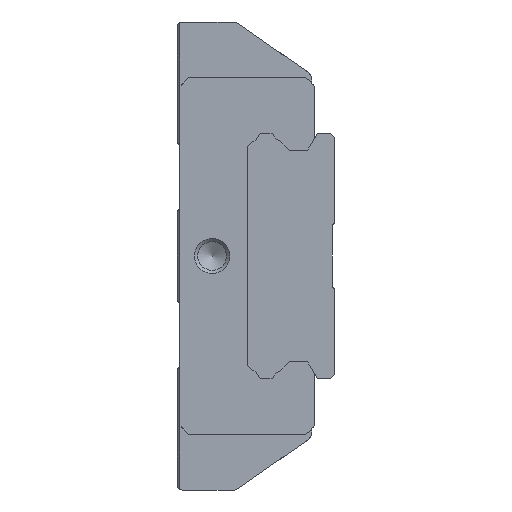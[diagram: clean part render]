
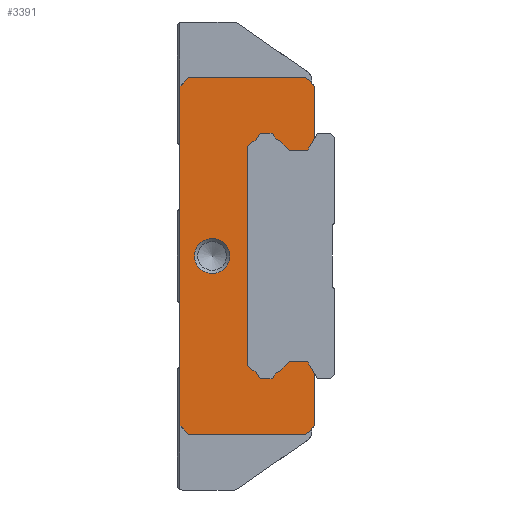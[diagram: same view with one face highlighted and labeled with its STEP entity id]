
A CAD part, left-side view. The second image highlights one B-rep face of the part: STEP entity #3391.
In plain terms, the highlighted planar face has unit normal (-1, 0, 0).
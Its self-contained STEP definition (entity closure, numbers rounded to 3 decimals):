
#139=CIRCLE('',#3677,3.);
#140=CIRCLE('',#3678,1.43);
#141=CIRCLE('',#3679,1.43);
#142=CIRCLE('',#3680,1.43);
#143=CIRCLE('',#3681,1.43);
#699=ORIENTED_EDGE('',*,*,#1475,.T.);
#700=ORIENTED_EDGE('',*,*,#1476,.T.);
#701=ORIENTED_EDGE('',*,*,#1471,.F.);
#702=ORIENTED_EDGE('',*,*,#1390,.F.);
#703=ORIENTED_EDGE('',*,*,#1451,.F.);
#704=ORIENTED_EDGE('',*,*,#1446,.F.);
#705=ORIENTED_EDGE('',*,*,#1466,.F.);
#706=ORIENTED_EDGE('',*,*,#1433,.F.);
#707=ORIENTED_EDGE('',*,*,#1453,.F.);
#708=ORIENTED_EDGE('',*,*,#1400,.F.);
#709=ORIENTED_EDGE('',*,*,#1473,.F.);
#710=ORIENTED_EDGE('',*,*,#1477,.T.);
#711=ORIENTED_EDGE('',*,*,#1478,.T.);
#712=ORIENTED_EDGE('',*,*,#1479,.T.);
#713=ORIENTED_EDGE('',*,*,#1480,.F.);
#714=ORIENTED_EDGE('',*,*,#1481,.T.);
#715=ORIENTED_EDGE('',*,*,#1482,.T.);
#716=ORIENTED_EDGE('',*,*,#1483,.T.);
#717=ORIENTED_EDGE('',*,*,#1484,.F.);
#718=ORIENTED_EDGE('',*,*,#1485,.T.);
#719=ORIENTED_EDGE('',*,*,#1458,.T.);
#720=ORIENTED_EDGE('',*,*,#1486,.T.);
#721=ORIENTED_EDGE('',*,*,#1487,.F.);
#722=ORIENTED_EDGE('',*,*,#1488,.T.);
#723=ORIENTED_EDGE('',*,*,#1489,.T.);
#724=ORIENTED_EDGE('',*,*,#1490,.T.);
#725=ORIENTED_EDGE('',*,*,#1491,.F.);
#726=ORIENTED_EDGE('',*,*,#1492,.T.);
#727=ORIENTED_EDGE('',*,*,#1493,.T.);
#1390=EDGE_CURVE('',#1812,#1813,#2128,.T.);
#1400=EDGE_CURVE('',#1822,#1823,#2138,.T.);
#1433=EDGE_CURVE('',#1845,#1846,#2171,.T.);
#1446=EDGE_CURVE('',#1856,#1857,#2184,.T.);
#1451=EDGE_CURVE('',#1857,#1812,#2189,.T.);
#1453=EDGE_CURVE('',#1823,#1845,#2191,.T.);
#1458=EDGE_CURVE('',#1860,#1862,#2196,.T.);
#1466=EDGE_CURVE('',#1846,#1856,#2202,.T.);
#1471=EDGE_CURVE('',#1813,#1866,#2207,.T.);
#1473=EDGE_CURVE('',#1867,#1822,#2209,.T.);
#1475=EDGE_CURVE('',#1869,#1869,#139,.T.);
#1476=EDGE_CURVE('',#1870,#1866,#2211,.T.);
#1477=EDGE_CURVE('',#1867,#1871,#2212,.T.);
#1478=EDGE_CURVE('',#1871,#1872,#2213,.T.);
#1479=EDGE_CURVE('',#1872,#1873,#2214,.T.);
#1480=EDGE_CURVE('',#1874,#1873,#140,.T.);
#1481=EDGE_CURVE('',#1874,#1875,#2215,.T.);
#1482=EDGE_CURVE('',#1875,#1876,#2216,.T.);
#1483=EDGE_CURVE('',#1876,#1877,#2217,.T.);
#1484=EDGE_CURVE('',#1878,#1877,#141,.T.);
#1485=EDGE_CURVE('',#1878,#1860,#2218,.T.);
#1486=EDGE_CURVE('',#1862,#1879,#2219,.T.);
#1487=EDGE_CURVE('',#1880,#1879,#142,.T.);
#1488=EDGE_CURVE('',#1880,#1881,#2220,.T.);
#1489=EDGE_CURVE('',#1881,#1882,#2221,.T.);
#1490=EDGE_CURVE('',#1882,#1883,#2222,.T.);
#1491=EDGE_CURVE('',#1884,#1883,#143,.T.);
#1492=EDGE_CURVE('',#1884,#1885,#2223,.T.);
#1493=EDGE_CURVE('',#1885,#1870,#2224,.T.);
#1812=VERTEX_POINT('',#5246);
#1813=VERTEX_POINT('',#5248);
#1822=VERTEX_POINT('',#5267);
#1823=VERTEX_POINT('',#5269);
#1845=VERTEX_POINT('',#5330);
#1846=VERTEX_POINT('',#5332);
#1856=VERTEX_POINT('',#5355);
#1857=VERTEX_POINT('',#5357);
#1860=VERTEX_POINT('',#5374);
#1862=VERTEX_POINT('',#5378);
#1866=VERTEX_POINT('',#5401);
#1867=VERTEX_POINT('',#5406);
#1869=VERTEX_POINT('',#5412);
#1870=VERTEX_POINT('',#5414);
#1871=VERTEX_POINT('',#5416);
#1872=VERTEX_POINT('',#5418);
#1873=VERTEX_POINT('',#5420);
#1874=VERTEX_POINT('',#5422);
#1875=VERTEX_POINT('',#5424);
#1876=VERTEX_POINT('',#5426);
#1877=VERTEX_POINT('',#5428);
#1878=VERTEX_POINT('',#5430);
#1879=VERTEX_POINT('',#5433);
#1880=VERTEX_POINT('',#5435);
#1881=VERTEX_POINT('',#5437);
#1882=VERTEX_POINT('',#5439);
#1883=VERTEX_POINT('',#5441);
#1884=VERTEX_POINT('',#5443);
#1885=VERTEX_POINT('',#5445);
#2128=LINE('',#5247,#2470);
#2138=LINE('',#5268,#2480);
#2171=LINE('',#5331,#2513);
#2184=LINE('',#5356,#2526);
#2189=LINE('',#5365,#2531);
#2191=LINE('',#5368,#2533);
#2196=LINE('',#5379,#2538);
#2202=LINE('',#5394,#2544);
#2207=LINE('',#5403,#2549);
#2209=LINE('',#5408,#2551);
#2211=LINE('',#5413,#2553);
#2212=LINE('',#5415,#2554);
#2213=LINE('',#5417,#2555);
#2214=LINE('',#5419,#2556);
#2215=LINE('',#5423,#2557);
#2216=LINE('',#5425,#2558);
#2217=LINE('',#5427,#2559);
#2218=LINE('',#5431,#2560);
#2219=LINE('',#5432,#2561);
#2220=LINE('',#5436,#2562);
#2221=LINE('',#5438,#2563);
#2222=LINE('',#5440,#2564);
#2223=LINE('',#5444,#2565);
#2224=LINE('',#5446,#2566);
#2470=VECTOR('',#4251,1000.);
#2480=VECTOR('',#4263,1000.);
#2513=VECTOR('',#4310,1000.);
#2526=VECTOR('',#4325,1000.);
#2531=VECTOR('',#4334,1000.);
#2533=VECTOR('',#4338,1000.);
#2538=VECTOR('',#4347,1000.);
#2544=VECTOR('',#4367,1000.);
#2549=VECTOR('',#4376,1000.);
#2551=VECTOR('',#4380,1000.);
#2553=VECTOR('',#4386,1000.);
#2554=VECTOR('',#4387,1000.);
#2555=VECTOR('',#4388,1000.);
#2556=VECTOR('',#4389,1000.);
#2557=VECTOR('',#4392,1000.);
#2558=VECTOR('',#4393,1000.);
#2559=VECTOR('',#4394,1000.);
#2560=VECTOR('',#4397,1000.);
#2561=VECTOR('',#4398,1000.);
#2562=VECTOR('',#4401,1000.);
#2563=VECTOR('',#4402,1000.);
#2564=VECTOR('',#4403,1000.);
#2565=VECTOR('',#4406,1000.);
#2566=VECTOR('',#4407,1000.);
#2795=EDGE_LOOP('',(#699));
#2796=EDGE_LOOP('',(#700,#701,#702,#703,#704,#705,#706,#707,#708,#709,#710,
#711,#712,#713,#714,#715,#716,#717,#718,#719,#720,#721,#722,#723,#724,#725,
#726,#727));
#3049=FACE_BOUND('',#2795,.T.);
#3050=FACE_BOUND('',#2796,.T.);
#3241=PLANE('',#3676);
#3391=ADVANCED_FACE('',(#3049,#3050),#3241,.F.);
#3676=AXIS2_PLACEMENT_3D('',#5410,#4382,#4383);
#3677=AXIS2_PLACEMENT_3D('',#5411,#4384,#4385);
#3678=AXIS2_PLACEMENT_3D('',#5421,#4390,#4391);
#3679=AXIS2_PLACEMENT_3D('',#5429,#4395,#4396);
#3680=AXIS2_PLACEMENT_3D('',#5434,#4399,#4400);
#3681=AXIS2_PLACEMENT_3D('',#5442,#4404,#4405);
#4251=DIRECTION('',(0.,-0.707,-0.707));
#4263=DIRECTION('',(0.,0.707,-0.707));
#4310=DIRECTION('',(0.,0.707,0.707));
#4325=DIRECTION('',(0.,-0.707,0.707));
#4334=DIRECTION('',(0.,-1.,0.));
#4338=DIRECTION('',(0.,1.,0.));
#4347=DIRECTION('',(0.,0.,1.));
#4367=DIRECTION('',(0.,0.,1.));
#4376=DIRECTION('',(0.,0.,-1.));
#4380=DIRECTION('',(0.,0.,-1.));
#4382=DIRECTION('',(1.,0.,0.));
#4383=DIRECTION('',(0.,0.,-1.));
#4384=DIRECTION('',(1.,0.,0.));
#4385=DIRECTION('',(0.,0.,-1.));
#4386=DIRECTION('',(0.,-0.5,0.866));
#4387=DIRECTION('',(0.,0.5,0.866));
#4388=DIRECTION('',(0.,1.,0.));
#4389=DIRECTION('',(0.,0.707,-0.707));
#4390=DIRECTION('',(1.,0.,0.));
#4391=DIRECTION('',(0.,0.,-1.));
#4392=DIRECTION('',(0.,0.707,-0.707));
#4393=DIRECTION('',(0.,1.,0.));
#4394=DIRECTION('',(0.,0.487,0.873));
#4395=DIRECTION('',(1.,0.,0.));
#4396=DIRECTION('',(0.,0.,-1.));
#4397=DIRECTION('',(0.,0.789,0.614));
#4398=DIRECTION('',(0.,-0.789,0.614));
#4399=DIRECTION('',(1.,0.,0.));
#4400=DIRECTION('',(0.,0.,-1.));
#4401=DIRECTION('',(0.,-0.487,0.873));
#4402=DIRECTION('',(0.,-1.,0.));
#4403=DIRECTION('',(0.,-0.707,-0.707));
#4404=DIRECTION('',(1.,0.,0.));
#4405=DIRECTION('',(0.,0.,-1.));
#4406=DIRECTION('',(0.,-0.707,-0.707));
#4407=DIRECTION('',(0.,-1.,0.));
#5246=CARTESIAN_POINT('',(-36.4,1.5,30.5));
#5247=CARTESIAN_POINT('',(-36.4,1.5,30.5));
#5248=CARTESIAN_POINT('',(-36.4,0.,29.));
#5267=CARTESIAN_POINT('',(-36.4,0.,-29.));
#5268=CARTESIAN_POINT('',(-36.4,0.,-29.));
#5269=CARTESIAN_POINT('',(-36.4,1.5,-30.5));
#5330=CARTESIAN_POINT('',(-36.4,21.5,-30.5));
#5331=CARTESIAN_POINT('',(-36.4,21.5,-30.5));
#5332=CARTESIAN_POINT('',(-36.4,23.,-29.));
#5355=CARTESIAN_POINT('',(-36.4,23.,29.));
#5356=CARTESIAN_POINT('',(-36.4,23.,29.));
#5357=CARTESIAN_POINT('',(-36.4,21.5,30.5));
#5365=CARTESIAN_POINT('',(-36.4,21.5,30.5));
#5368=CARTESIAN_POINT('',(-36.4,1.5,-30.5));
#5374=CARTESIAN_POINT('',(-36.4,11.5,-18.76));
#5378=CARTESIAN_POINT('',(-36.4,11.5,18.76));
#5379=CARTESIAN_POINT('',(-36.4,11.5,-18.76));
#5394=CARTESIAN_POINT('',(-36.4,23.,-29.));
#5401=CARTESIAN_POINT('',(-36.4,0.,20.099));
#5403=CARTESIAN_POINT('',(-36.4,0.,29.));
#5406=CARTESIAN_POINT('',(-36.4,0.,-20.099));
#5408=CARTESIAN_POINT('',(-36.4,0.,29.));
#5410=CARTESIAN_POINT('',(-36.4,0.,0.));
#5411=CARTESIAN_POINT('',(-36.4,17.5,0.));
#5412=CARTESIAN_POINT('',(-36.4,17.5,-3.));
#5413=CARTESIAN_POINT('',(-36.4,1.154,18.1));
#5414=CARTESIAN_POINT('',(-36.4,1.154,18.1));
#5415=CARTESIAN_POINT('',(-36.4,-0.52,-21.));
#5416=CARTESIAN_POINT('',(-36.4,1.154,-18.1));
#5417=CARTESIAN_POINT('',(-36.4,1.154,-18.1));
#5418=CARTESIAN_POINT('',(-36.4,4.34,-18.1));
#5419=CARTESIAN_POINT('',(-36.4,4.34,-18.1));
#5420=CARTESIAN_POINT('',(-36.4,5.908,-19.668));
#5421=CARTESIAN_POINT('',(-36.4,5.645,-21.074));
#5422=CARTESIAN_POINT('',(-36.4,7.051,-20.811));
#5423=CARTESIAN_POINT('',(-36.4,7.051,-20.811));
#5424=CARTESIAN_POINT('',(-36.4,7.24,-21.));
#5425=CARTESIAN_POINT('',(-36.4,7.24,-21.));
#5426=CARTESIAN_POINT('',(-36.4,9.26,-21.));
#5427=CARTESIAN_POINT('',(-36.4,9.26,-21.));
#5428=CARTESIAN_POINT('',(-36.4,9.607,-20.378));
#5429=CARTESIAN_POINT('',(-36.4,10.856,-21.074));
#5430=CARTESIAN_POINT('',(-36.4,9.977,-19.946));
#5431=CARTESIAN_POINT('',(-36.4,9.977,-19.946));
#5432=CARTESIAN_POINT('',(-36.4,11.5,18.76));
#5433=CARTESIAN_POINT('',(-36.4,9.977,19.946));
#5434=CARTESIAN_POINT('',(-36.4,10.856,21.074));
#5435=CARTESIAN_POINT('',(-36.4,9.607,20.378));
#5436=CARTESIAN_POINT('',(-36.4,9.607,20.378));
#5437=CARTESIAN_POINT('',(-36.4,9.26,21.));
#5438=CARTESIAN_POINT('',(-36.4,9.26,21.));
#5439=CARTESIAN_POINT('',(-36.4,7.24,21.));
#5440=CARTESIAN_POINT('',(-36.4,7.24,21.));
#5441=CARTESIAN_POINT('',(-36.4,7.051,20.811));
#5442=CARTESIAN_POINT('',(-36.4,5.645,21.074));
#5443=CARTESIAN_POINT('',(-36.4,5.908,19.668));
#5444=CARTESIAN_POINT('',(-36.4,5.908,19.668));
#5445=CARTESIAN_POINT('',(-36.4,4.34,18.1));
#5446=CARTESIAN_POINT('',(-36.4,4.34,18.1));
